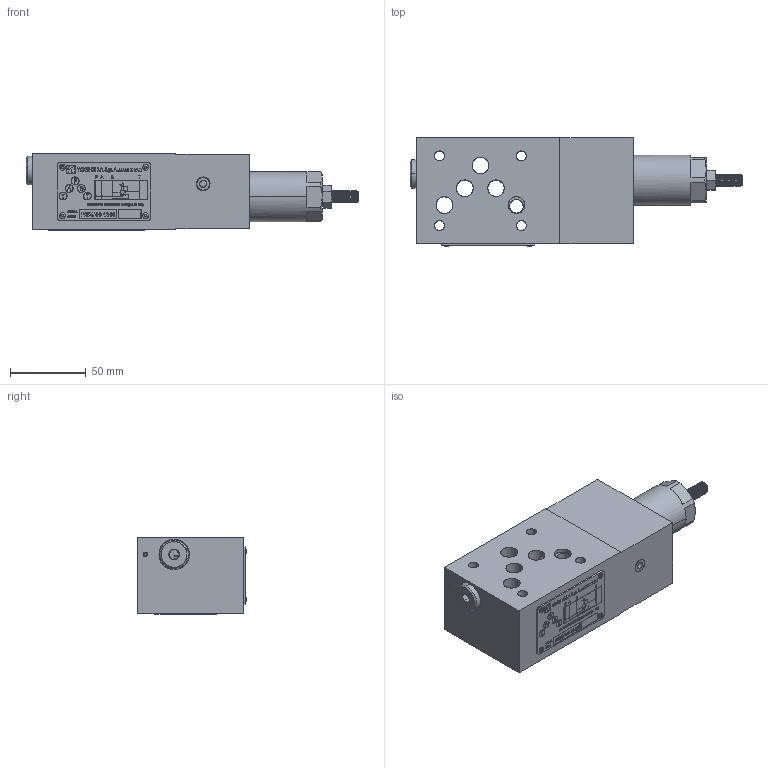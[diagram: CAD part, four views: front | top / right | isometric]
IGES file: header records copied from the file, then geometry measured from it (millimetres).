
Start section: SolidWorks IGES file using analytic representation for surfaces
Global section: file name: C:\Users\pc-te25\Desktop\ASSIEME 376-4-B-12-05.IGS; native system: SolidWorks 2018; preprocessor: SolidWorks 2018; author: pc-te25; date: 191204.100011; units: millimetre
Bounding box: 219.21 x 71.66 x 50.85 mm (x, y, z)
Surface area: 68949.4 mm2 (no closed solid volume)
Topology: 0 solids, 0 shells, 776 faces, 13750 edges, 13746 vertices
Faces by surface type: bspline 470, revolution 306
